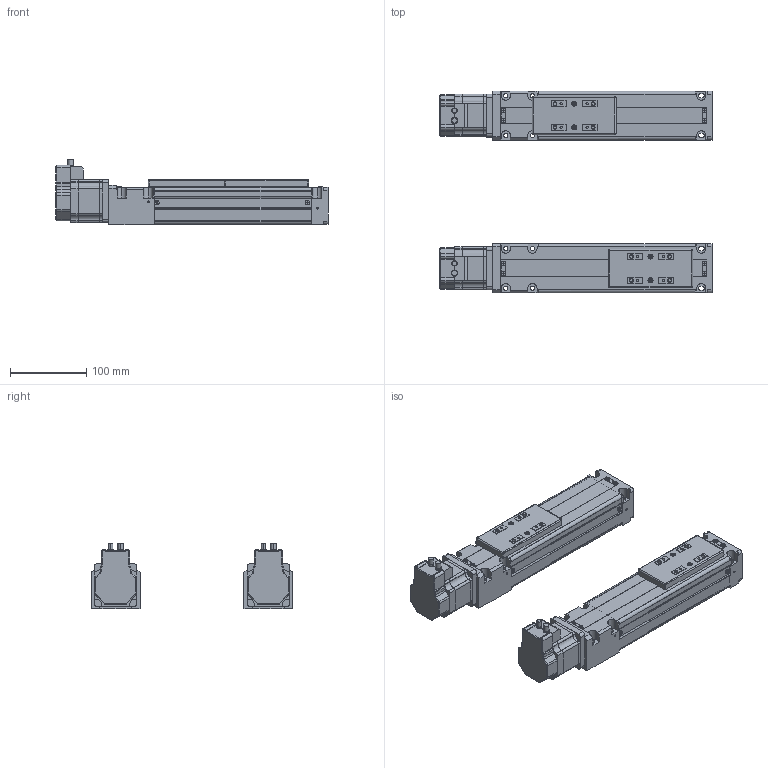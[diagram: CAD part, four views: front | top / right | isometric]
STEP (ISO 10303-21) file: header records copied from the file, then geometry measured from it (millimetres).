
FILE_DESCRIPTION(('STEP AP214'),'1');
FILE_NAME('Z:\外形図\3D DAD2\SCLT6_B\tmp0.step',' ',(' '),(' '),'XStep 1.0',' ',' ');
FILE_SCHEMA(('automotive_design'));
Length unit declared in the file: millimetre
Products named in the file (20): 6; 1; 8; 12; 9; 5; 3; VLAST60-06-0100-0-0N (0) (100)|_VLA-ST-60-12-0100 Body;_VLA-ST-60-12-0100 Body; VLAST60-06-0100-0-0N (0) (100)|_VLA-ST-60-12-0050 Slider;_VLA-ST-60-12-0050 Slider; 2; 4; 7; 11; 10
Bounding box: 356 x 264 x 85.99 mm (x, y, z)
Volume: 1171737.2 mm3; surface area: 430771.6 mm2
Topology: 20 solids, 20 shells, 1638 faces, 4310 edges, 2728 vertices
Faces by surface type: plane 996, cylinder 416, cone 140, bspline 78, sphere 8
Entity records: 65871 total; most frequent: CARTESIAN_POINT 11338, ORIENTED_EDGE 8572, DIRECTION 8430, EDGE_CURVE 4286, LINE 3118, VECTOR 3118, VERTEX_POINT 2728, AXIS2_PLACEMENT_3D 2656
